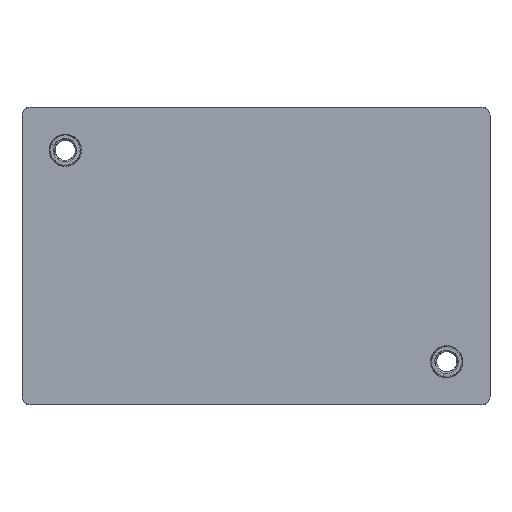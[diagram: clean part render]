
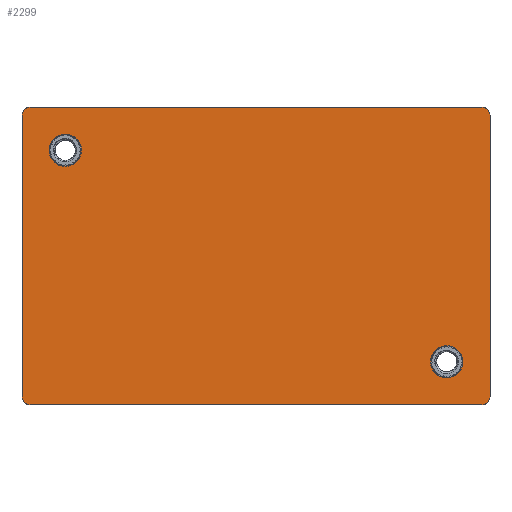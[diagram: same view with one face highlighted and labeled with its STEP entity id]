
A CAD part, front view. The second image highlights one B-rep face of the part: STEP entity #2299.
In plain terms, the highlighted planar face has unit normal (0, -1, 0).
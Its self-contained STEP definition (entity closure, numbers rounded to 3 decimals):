
#351 = CIRCLE ( 'NONE', #1477, 2. ) ;
#618 = DIRECTION ( 'NONE',  ( 0., 0., 1. ) ) ;
#676 = LINE ( 'NONE', #1971, #11124 ) ;
#779 = VERTEX_POINT ( 'NONE', #14913 ) ;
#919 = CARTESIAN_POINT ( 'NONE',  ( -27.95, -1.2, -18.4 ) ) ;
#970 = CARTESIAN_POINT ( 'NONE',  ( 23.6, -1.2, -11.08 ) ) ;
#1239 = CARTESIAN_POINT ( 'NONE',  ( -28.95, -1.2, 17.4 ) ) ;
#1258 = DIRECTION ( 'NONE',  ( 1., 0., 0. ) ) ;
#1400 = ORIENTED_EDGE ( 'NONE', *, *, #12420, .F. ) ;
#1420 = PLANE ( 'NONE',  #7462 ) ;
#1477 = AXIS2_PLACEMENT_3D ( 'NONE', #16479, #3360, #2157 ) ;
#1934 = DIRECTION ( 'NONE',  ( 1., 0., 0. ) ) ;
#1971 = CARTESIAN_POINT ( 'NONE',  ( 28.95, -1.2, -18.4 ) ) ;
#2007 = AXIS2_PLACEMENT_3D ( 'NONE', #3733, #14316, #8993 ) ;
#2090 = EDGE_CURVE ( 'NONE', #9406, #16286, #6864, .T. ) ;
#2100 = CARTESIAN_POINT ( 'NONE',  ( -28.95, -1.2, -18.4 ) ) ;
#2157 = DIRECTION ( 'NONE',  ( 0., 0., 1. ) ) ;
#2158 = CARTESIAN_POINT ( 'NONE',  ( 27.95, -1.2, 18.4 ) ) ;
#2185 = LINE ( 'NONE', #2100, #8639 ) ;
#2299 = ADVANCED_FACE ( 'NONE', ( #6534, #12017, #13218 ), #1420, .F. ) ;
#3360 = DIRECTION ( 'NONE',  ( 0., 1., 0. ) ) ;
#3733 = CARTESIAN_POINT ( 'NONE',  ( -27.95, -1.2, 17.4 ) ) ;
#3866 = CARTESIAN_POINT ( 'NONE',  ( 28.95, -1.2, -17.4 ) ) ;
#4064 = CARTESIAN_POINT ( 'NONE',  ( -23.6, -1.2, 15.08 ) ) ;
#4381 = CARTESIAN_POINT ( 'NONE',  ( -28.95, -1.2, -18.4 ) ) ;
#4556 = CIRCLE ( 'NONE', #14740, 1. ) ;
#4621 = LINE ( 'NONE', #12696, #16325 ) ;
#4808 = EDGE_CURVE ( 'NONE', #5626, #11593, #14676, .T. ) ;
#4985 = DIRECTION ( 'NONE',  ( 0., 0., 1. ) ) ;
#5257 = ORIENTED_EDGE ( 'NONE', *, *, #15432, .T. ) ;
#5285 = CARTESIAN_POINT ( 'NONE',  ( 28.95, -1.2, 17.4 ) ) ;
#5439 = EDGE_CURVE ( 'NONE', #12681, #12681, #351, .T. ) ;
#5626 = VERTEX_POINT ( 'NONE', #15955 ) ;
#5986 = EDGE_CURVE ( 'NONE', #9406, #16215, #13320, .T. ) ;
#6083 = ORIENTED_EDGE ( 'NONE', *, *, #2090, .T. ) ;
#6205 = CIRCLE ( 'NONE', #8399, 2. ) ;
#6446 = CARTESIAN_POINT ( 'NONE',  ( 27.95, -1.2, -17.4 ) ) ;
#6534 = FACE_OUTER_BOUND ( 'NONE', #11314, .T. ) ;
#6596 = ORIENTED_EDGE ( 'NONE', *, *, #5986, .F. ) ;
#6700 = DIRECTION ( 'NONE',  ( 0., 1., 0. ) ) ;
#6864 = CIRCLE ( 'NONE', #12886, 1. ) ;
#6973 = ORIENTED_EDGE ( 'NONE', *, *, #9797, .F. ) ;
#7199 = DIRECTION ( 'NONE',  ( 0., 1., 0. ) ) ;
#7462 = AXIS2_PLACEMENT_3D ( 'NONE', #15740, #6700, #1258 ) ;
#7473 = DIRECTION ( 'NONE',  ( 0., -1., 0. ) ) ;
#8160 = EDGE_CURVE ( 'NONE', #779, #11593, #2185, .T. ) ;
#8357 = ORIENTED_EDGE ( 'NONE', *, *, #4808, .T. ) ;
#8399 = AXIS2_PLACEMENT_3D ( 'NONE', #12418, #7199, #618 ) ;
#8579 = VERTEX_POINT ( 'NONE', #5285 ) ;
#8639 = VECTOR ( 'NONE', #15291, 1000. ) ;
#8843 = CARTESIAN_POINT ( 'NONE',  ( 27.95, -1.2, 17.4 ) ) ;
#8993 = DIRECTION ( 'NONE',  ( 0., 0., 1. ) ) ;
#9406 = VERTEX_POINT ( 'NONE', #9966 ) ;
#9797 = EDGE_CURVE ( 'NONE', #5626, #14665, #4621, .T. ) ;
#9872 = EDGE_LOOP ( 'NONE', ( #12050 ) ) ;
#9966 = CARTESIAN_POINT ( 'NONE',  ( 27.95, -1.2, -18.4 ) ) ;
#10386 = DIRECTION ( 'NONE',  ( 0., -1., 0. ) ) ;
#10602 = ORIENTED_EDGE ( 'NONE', *, *, #8160, .F. ) ;
#11071 = EDGE_LOOP ( 'NONE', ( #14203 ) ) ;
#11124 = VECTOR ( 'NONE', #16468, 1000. ) ;
#11314 = EDGE_LOOP ( 'NONE', ( #10602, #5257, #6596, #6083, #1400, #15521, #6973, #8357 ) ) ;
#11500 = DIRECTION ( 'NONE',  ( 0., 0., 1. ) ) ;
#11593 = VERTEX_POINT ( 'NONE', #1239 ) ;
#12017 = FACE_BOUND ( 'NONE', #11071, .T. ) ;
#12050 = ORIENTED_EDGE ( 'NONE', *, *, #5439, .T. ) ;
#12263 = AXIS2_PLACEMENT_3D ( 'NONE', #15325, #12634, #4985 ) ;
#12418 = CARTESIAN_POINT ( 'NONE',  ( -23.6, -1.2, 13.08 ) ) ;
#12420 = EDGE_CURVE ( 'NONE', #8579, #16286, #676, .T. ) ;
#12465 = VECTOR ( 'NONE', #15930, 1000. ) ;
#12634 = DIRECTION ( 'NONE',  ( 0., -1., 0. ) ) ;
#12681 = VERTEX_POINT ( 'NONE', #970 ) ;
#12696 = CARTESIAN_POINT ( 'NONE',  ( -28.95, -1.2, 18.4 ) ) ;
#12886 = AXIS2_PLACEMENT_3D ( 'NONE', #6446, #10386, #16607 ) ;
#13092 = CIRCLE ( 'NONE', #12263, 1. ) ;
#13218 = FACE_BOUND ( 'NONE', #9872, .T. ) ;
#13320 = LINE ( 'NONE', #4381, #12465 ) ;
#14203 = ORIENTED_EDGE ( 'NONE', *, *, #15372, .T. ) ;
#14316 = DIRECTION ( 'NONE',  ( 0., -1., 0. ) ) ;
#14665 = VERTEX_POINT ( 'NONE', #2158 ) ;
#14676 = CIRCLE ( 'NONE', #2007, 1. ) ;
#14740 = AXIS2_PLACEMENT_3D ( 'NONE', #8843, #7473, #11500 ) ;
#14913 = CARTESIAN_POINT ( 'NONE',  ( -28.95, -1.2, -17.4 ) ) ;
#15291 = DIRECTION ( 'NONE',  ( 0., 0., 1. ) ) ;
#15325 = CARTESIAN_POINT ( 'NONE',  ( -27.95, -1.2, -17.4 ) ) ;
#15372 = EDGE_CURVE ( 'NONE', #16117, #16117, #6205, .T. ) ;
#15432 = EDGE_CURVE ( 'NONE', #779, #16215, #13092, .T. ) ;
#15521 = ORIENTED_EDGE ( 'NONE', *, *, #16697, .T. ) ;
#15740 = CARTESIAN_POINT ( 'NONE',  ( -23.6, -1.2, 13.08 ) ) ;
#15930 = DIRECTION ( 'NONE',  ( -1., 0., 0. ) ) ;
#15955 = CARTESIAN_POINT ( 'NONE',  ( -27.95, -1.2, 18.4 ) ) ;
#16117 = VERTEX_POINT ( 'NONE', #4064 ) ;
#16215 = VERTEX_POINT ( 'NONE', #919 ) ;
#16286 = VERTEX_POINT ( 'NONE', #3866 ) ;
#16325 = VECTOR ( 'NONE', #1934, 1000. ) ;
#16468 = DIRECTION ( 'NONE',  ( 0., 0., -1. ) ) ;
#16479 = CARTESIAN_POINT ( 'NONE',  ( 23.6, -1.2, -13.08 ) ) ;
#16607 = DIRECTION ( 'NONE',  ( 0., 0., 1. ) ) ;
#16697 = EDGE_CURVE ( 'NONE', #8579, #14665, #4556, .T. ) ;
